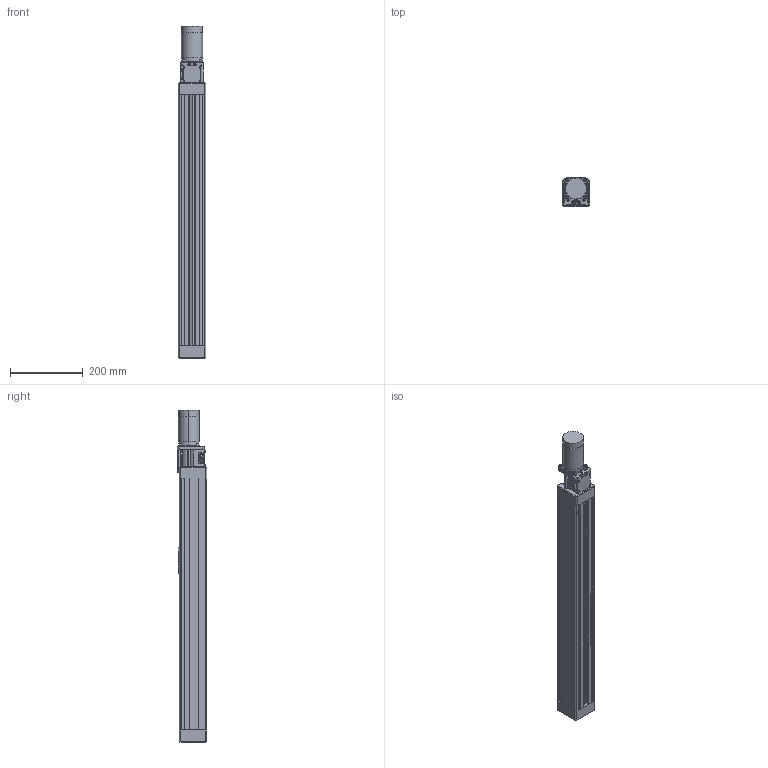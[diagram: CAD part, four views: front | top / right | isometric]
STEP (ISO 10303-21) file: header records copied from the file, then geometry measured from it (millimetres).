
FILE_DESCRIPTION (( 'STEP AP203' ), '1' );
FILE_NAME ('8MT195-540.STEP', '2009-10-09T11:11:33', ( 'Darius' ), ( '' ), 'SwSTEP 2.0', 'SolidWorks 2003240', '' );
FILE_SCHEMA (( 'CONFIG_CONTROL_DESIGN' ));
Length unit declared in the file: millimetre
Products named in the file (1): 8MT195-540
Bounding box: 75 x 80.5 x 912.45 mm (x, y, z)
Volume: 4175404 mm3; surface area: 411208.6 mm2
Topology: 1 solids, 22 shells, 1086 faces, 2862 edges, 1812 vertices
Faces by surface type: plane 525, cylinder 343, cone 135, bspline 83
Entity records: 35875 total; most frequent: CARTESIAN_POINT 9600, ORIENTED_EDGE 5576, DIRECTION 5334, EDGE_CURVE 2788, AXIS2_PLACEMENT_3D 1940, VERTEX_POINT 1812, VECTOR 1454, LINE 1454
